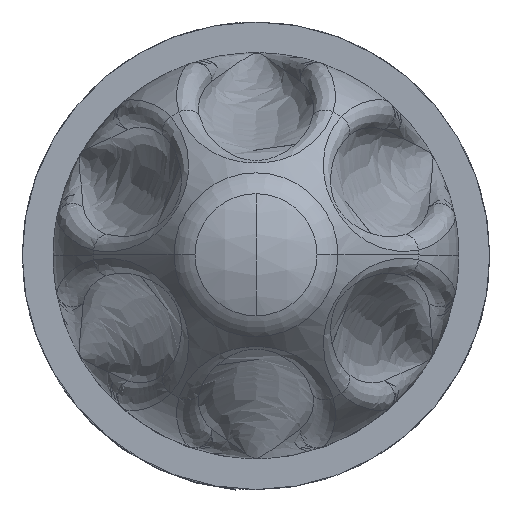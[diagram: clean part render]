
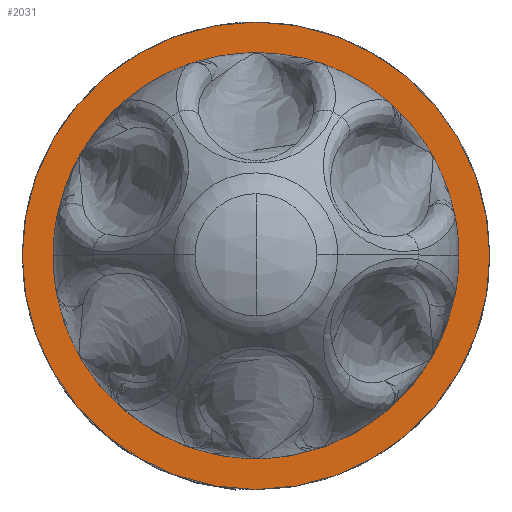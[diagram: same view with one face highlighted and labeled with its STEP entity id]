
A CAD part, top view. The second image highlights one B-rep face of the part: STEP entity #2031.
In plain terms, the highlighted planar face has unit normal (0, 0, 1).
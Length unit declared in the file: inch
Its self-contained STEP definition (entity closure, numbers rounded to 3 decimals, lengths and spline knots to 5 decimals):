
#532 = CARTESIAN_POINT ( 'NONE',  ( 0.122, 0., 0.458 ) ) ;
#558 = ORIENTED_EDGE ( 'NONE', *, *, #23088, .T. ) ;
#565 = VERTEX_POINT ( 'NONE', #532 ) ;
#1472 = ORIENTED_EDGE ( 'NONE', *, *, #3555, .F. ) ;
#2031 = ADVANCED_FACE ( 'NONE', ( #6260, #13733 ), #21260, .T. ) ;
#2050 = DIRECTION ( 'NONE',  ( 1., 0., 0. ) ) ;
#2916 = EDGE_LOOP ( 'NONE', ( #558, #19971 ) ) ;
#3555 = EDGE_CURVE ( 'NONE', #18087, #4786, #19904, .T. ) ;
#3852 = CARTESIAN_POINT ( 'NONE',  ( -0.14055, 0., 0.458 ) ) ;
#4487 = DIRECTION ( 'NONE',  ( 0., 0., -1. ) ) ;
#4764 = CARTESIAN_POINT ( 'NONE',  ( 0., 0., 0.458 ) ) ;
#4786 = VERTEX_POINT ( 'NONE', #3852 ) ;
#5620 = CARTESIAN_POINT ( 'NONE',  ( -0.122, 0., 0.458 ) ) ;
#6077 = DIRECTION ( 'NONE',  ( 0., 0., -1. ) ) ;
#6219 = AXIS2_PLACEMENT_3D ( 'NONE', #4764, #19433, #19310 ) ;
#6260 = FACE_BOUND ( 'NONE', #2916, .T. ) ;
#8506 = CARTESIAN_POINT ( 'NONE',  ( 0., 0., 0.458 ) ) ;
#9165 = CARTESIAN_POINT ( 'NONE',  ( 0.14055, 0., 0.458 ) ) ;
#9756 = EDGE_LOOP ( 'NONE', ( #15075, #1472 ) ) ;
#13733 = FACE_OUTER_BOUND ( 'NONE', #9756, .T. ) ;
#14219 = AXIS2_PLACEMENT_3D ( 'NONE', #15773, #6077, #17409 ) ;
#15075 = ORIENTED_EDGE ( 'NONE', *, *, #15703, .F. ) ;
#15098 = DIRECTION ( 'NONE',  ( 0., 0., 1. ) ) ;
#15703 = EDGE_CURVE ( 'NONE', #4786, #18087, #21873, .T. ) ;
#15773 = CARTESIAN_POINT ( 'NONE',  ( 0., 0., 0.458 ) ) ;
#15981 = DIRECTION ( 'NONE',  ( 0., 0., -1. ) ) ;
#16969 = CARTESIAN_POINT ( 'NONE',  ( 0., 0.14055, 0.458 ) ) ;
#17409 = DIRECTION ( 'NONE',  ( -1., 0., 0. ) ) ;
#17737 = DIRECTION ( 'NONE',  ( -1., 0., 0. ) ) ;
#18087 = VERTEX_POINT ( 'NONE', #9165 ) ;
#18194 = CIRCLE ( 'NONE', #14219, 0.122 ) ;
#18306 = AXIS2_PLACEMENT_3D ( 'NONE', #21361, #4487, #23314 ) ;
#19147 = AXIS2_PLACEMENT_3D ( 'NONE', #8506, #15981, #17737 ) ;
#19310 = DIRECTION ( 'NONE',  ( -1., 0., 0. ) ) ;
#19433 = DIRECTION ( 'NONE',  ( 0., 0., -1. ) ) ;
#19904 = CIRCLE ( 'NONE', #19147, 0.14055 ) ;
#19971 = ORIENTED_EDGE ( 'NONE', *, *, #21577, .T. ) ;
#21152 = CIRCLE ( 'NONE', #6219, 0.122 ) ;
#21260 = PLANE ( 'NONE',  #21837 ) ;
#21361 = CARTESIAN_POINT ( 'NONE',  ( 0., 0., 0.458 ) ) ;
#21577 = EDGE_CURVE ( 'NONE', #565, #23752, #21152, .T. ) ;
#21837 = AXIS2_PLACEMENT_3D ( 'NONE', #16969, #15098, #2050 ) ;
#21873 = CIRCLE ( 'NONE', #18306, 0.14055 ) ;
#23088 = EDGE_CURVE ( 'NONE', #23752, #565, #18194, .T. ) ;
#23314 = DIRECTION ( 'NONE',  ( -1., 0., 0. ) ) ;
#23752 = VERTEX_POINT ( 'NONE', #5620 ) ;
